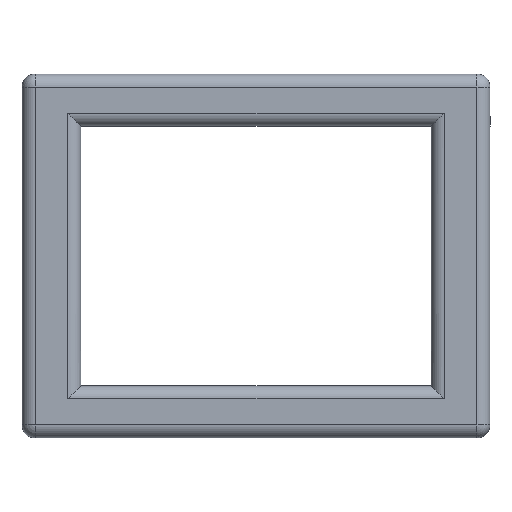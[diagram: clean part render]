
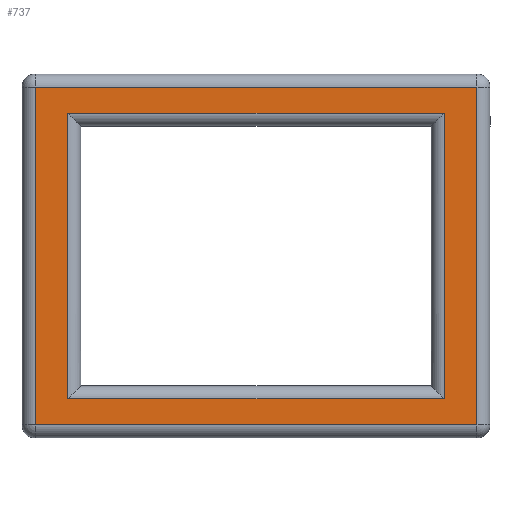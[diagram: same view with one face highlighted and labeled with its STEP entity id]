
A CAD part, front view. The second image highlights one B-rep face of the part: STEP entity #737.
In plain terms, the highlighted planar face has unit normal (0, -1, 0).
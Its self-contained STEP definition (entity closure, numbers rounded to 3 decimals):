
#7 = ORIENTED_EDGE ( 'NONE', *, *, #639, .T. ) ;
#67 = ORIENTED_EDGE ( 'NONE', *, *, #749, .T. ) ;
#99 = VECTOR ( 'NONE', #740, 1000. ) ;
#120 = CARTESIAN_POINT ( 'NONE',  ( 28.957, -3., -20. ) ) ;
#143 = CARTESIAN_POINT ( 'NONE',  ( -28.957, -3., 22. ) ) ;
#173 = VERTEX_POINT ( 'NONE', #1032 ) ;
#175 = FACE_OUTER_BOUND ( 'NONE', #1820, .T. ) ;
#203 = DIRECTION ( 'NONE',  ( 0., 0., 1. ) ) ;
#247 = VECTOR ( 'NONE', #1714, 1000. ) ;
#270 = VERTEX_POINT ( 'NONE', #1190 ) ;
#310 = FACE_BOUND ( 'NONE', #349, .T. ) ;
#325 = LINE ( 'NONE', #1765, #99 ) ;
#349 = EDGE_LOOP ( 'NONE', ( #865, #489, #67, #7 ) ) ;
#350 = CARTESIAN_POINT ( 'NONE',  ( -28.957, -3., 0. ) ) ;
#359 = EDGE_CURVE ( 'NONE', #1379, #1308, #1526, .T. ) ;
#375 = VECTOR ( 'NONE', #1430, 1000. ) ;
#397 = VECTOR ( 'NONE', #203, 1000. ) ;
#443 = DIRECTION ( 'NONE',  ( -1., 0., 0. ) ) ;
#483 = EDGE_CURVE ( 'NONE', #839, #173, #712, .T. ) ;
#489 = ORIENTED_EDGE ( 'NONE', *, *, #898, .T. ) ;
#516 = CARTESIAN_POINT ( 'NONE',  ( 0., -3., -22. ) ) ;
#538 = VERTEX_POINT ( 'NONE', #143 ) ;
#597 = DIRECTION ( 'NONE',  ( 1., 0., 0. ) ) ;
#639 = EDGE_CURVE ( 'NONE', #1031, #1379, #1111, .T. ) ;
#666 = CARTESIAN_POINT ( 'NONE',  ( 28.957, -3., -22. ) ) ;
#712 = LINE ( 'NONE', #1122, #375 ) ;
#737 = ADVANCED_FACE ( 'NONE', ( #310, #175 ), #1602, .T. ) ;
#740 = DIRECTION ( 'NONE',  ( 1., 0., 0. ) ) ;
#749 = EDGE_CURVE ( 'NONE', #538, #1031, #987, .T. ) ;
#759 = VECTOR ( 'NONE', #1093, 1000. ) ;
#773 = EDGE_CURVE ( 'NONE', #270, #870, #885, .T. ) ;
#839 = VERTEX_POINT ( 'NONE', #1487 ) ;
#865 = ORIENTED_EDGE ( 'NONE', *, *, #359, .T. ) ;
#870 = VERTEX_POINT ( 'NONE', #1215 ) ;
#885 = LINE ( 'NONE', #1455, #247 ) ;
#898 = EDGE_CURVE ( 'NONE', #1308, #538, #1622, .T. ) ;
#907 = VECTOR ( 'NONE', #1385, 1000. ) ;
#987 = LINE ( 'NONE', #1129, #1054 ) ;
#1019 = CARTESIAN_POINT ( 'NONE',  ( 0., -3., 0. ) ) ;
#1031 = VERTEX_POINT ( 'NONE', #1388 ) ;
#1032 = CARTESIAN_POINT ( 'NONE',  ( 34., -3., 26. ) ) ;
#1054 = VECTOR ( 'NONE', #597, 1000. ) ;
#1093 = DIRECTION ( 'NONE',  ( 0., 0., -1. ) ) ;
#1111 = LINE ( 'NONE', #120, #759 ) ;
#1122 = CARTESIAN_POINT ( 'NONE',  ( 34., -3., 0. ) ) ;
#1129 = CARTESIAN_POINT ( 'NONE',  ( 26.957, -3., 22. ) ) ;
#1148 = LINE ( 'NONE', #1723, #1310 ) ;
#1187 = EDGE_CURVE ( 'NONE', #870, #839, #325, .T. ) ;
#1190 = CARTESIAN_POINT ( 'NONE',  ( -34., -3., 26. ) ) ;
#1215 = CARTESIAN_POINT ( 'NONE',  ( -34., -3., -26. ) ) ;
#1306 = DIRECTION ( 'NONE',  ( 0., -1., 0. ) ) ;
#1308 = VERTEX_POINT ( 'NONE', #1828 ) ;
#1310 = VECTOR ( 'NONE', #443, 1000. ) ;
#1379 = VERTEX_POINT ( 'NONE', #666 ) ;
#1385 = DIRECTION ( 'NONE',  ( -1., 0., 0. ) ) ;
#1388 = CARTESIAN_POINT ( 'NONE',  ( 28.957, -3., 22. ) ) ;
#1430 = DIRECTION ( 'NONE',  ( 0., 0., 1. ) ) ;
#1446 = DIRECTION ( 'NONE',  ( 0., 0., -1. ) ) ;
#1455 = CARTESIAN_POINT ( 'NONE',  ( -34., -3., -28. ) ) ;
#1480 = ORIENTED_EDGE ( 'NONE', *, *, #1187, .T. ) ;
#1487 = CARTESIAN_POINT ( 'NONE',  ( 34., -3., -26. ) ) ;
#1526 = LINE ( 'NONE', #516, #907 ) ;
#1533 = AXIS2_PLACEMENT_3D ( 'NONE', #1019, #1306, #1446 ) ;
#1568 = EDGE_CURVE ( 'NONE', #173, #270, #1148, .T. ) ;
#1602 = PLANE ( 'NONE',  #1533 ) ;
#1620 = ORIENTED_EDGE ( 'NONE', *, *, #483, .T. ) ;
#1622 = LINE ( 'NONE', #350, #397 ) ;
#1650 = ORIENTED_EDGE ( 'NONE', *, *, #1568, .T. ) ;
#1714 = DIRECTION ( 'NONE',  ( 0., 0., -1. ) ) ;
#1723 = CARTESIAN_POINT ( 'NONE',  ( 0., -3., 26. ) ) ;
#1765 = CARTESIAN_POINT ( 'NONE',  ( 36., -3., -26. ) ) ;
#1766 = ORIENTED_EDGE ( 'NONE', *, *, #773, .T. ) ;
#1820 = EDGE_LOOP ( 'NONE', ( #1766, #1480, #1620, #1650 ) ) ;
#1828 = CARTESIAN_POINT ( 'NONE',  ( -28.957, -3., -22. ) ) ;
